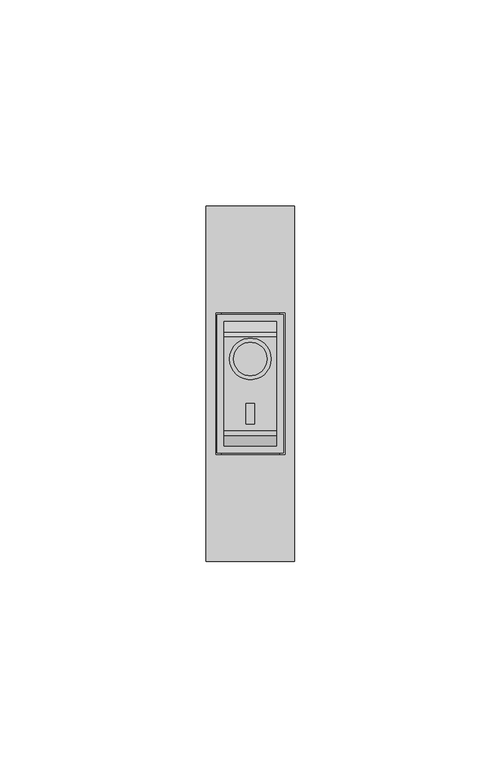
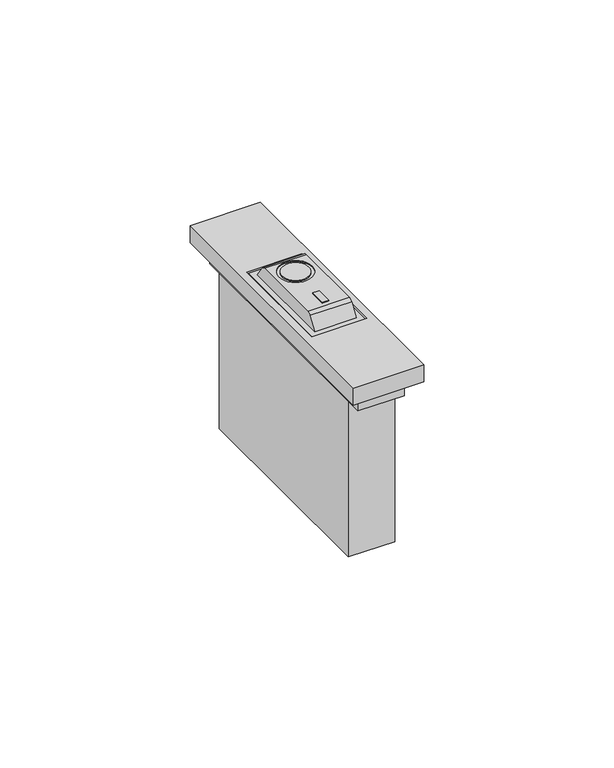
"""IFC4 building model written with IfcOpenShell, lengths in millimetres: proxy geometry, BT_LN-InterruttoreBipolare : Interruttore Bipolare - Art. KW4002 - 1M - Cover Bianco."""

from ifc_helpers import new_model, si_unit, frame, origin, origin_with_axes, place, context, project, spatial, polyline, circle_curve, outline, extrude, source, transform, mapped, element, save
from ifc_brep_helpers import plane_surface, cylinder_surface, revolved_surface, advanced_brep


def electrical_fixtures_2734a769(model_context):
    return source(origin(), model_context, "Body", "SolidModel", [
        extrude(outline(polyline([(-7.0, 39.0), (7.0, 39.0), (7.0, -39.0), (-7.0, -39.0), (-7.0, 39.0)])), frame((0.0, 0.0, 50.0), z_axis=(0.0, 0.0, 1.0), x_axis=(1.0, 0.0, 0.0)), (0.0, 0.0, 1.0), 5.5),
        extrude(outline(polyline([(-7.0, 34.0), (7.0, 34.0), (7.0, -34.0), (-7.0, -34.0), (-7.0, 34.0)])), origin_with_axes(), (0.0, 0.0, 1.0), 50.0),
        extrude(outline(polyline([(1.0, -4.7442618), (1.0, -9.7442618), (-1.0, -9.7442618), (-1.0, -4.7442618), (1.0, -4.7442618)])), frame((0.0, 0.0, 60.7), z_axis=(0.0, 0.0, 1.0), x_axis=(1.0, 0.0, 0.0)), (0.0, 0.0, 1.0), 4.3),
        advanced_brep(
        [(-6.3433174, 11.3192568, 65.0), (-6.3433174, 12.5494472, 64.3582724), (-6.3433174, 15.1017303, 60.7), (-6.3433174, -15.1017303, 60.7), (-6.3433174, -12.5494472, 64.3582724), (-6.3433174, -11.3192568, 65.0), (6.3433174, 11.3192568, 65.0), (6.3433174, -11.3192568, 65.0), (6.3433174, -12.5494472, 64.3582724), (6.3433174, -15.1017303, 60.7), (6.3433174, 15.1017303, 60.7), (6.3433174, 12.5494472, 64.3582724), (-5.0321318, 6.0, 65.0), (5.0321318, 6.0, 65.0), (1.0, -9.7442618, 65.0), (-1.0, -9.7442618, 65.0), (-1.0, -4.7442618, 65.0), (1.0, -4.7442618, 65.0), (-4.0321318, 6.0, 65.0), (4.0321318, 6.0, 65.0), (-1.0, -9.7442618, 60.7), (1.0, -9.7442618, 60.7), (1.0, -4.7442618, 60.7), (-1.0, -4.7442618, 60.7), (5.0321318, 6.0, 64.642622), (-5.0321318, 6.0, 64.642622), (4.0321318, 6.0, 64.642622), (-4.0321318, 6.0, 64.642622)],
        [
            (0, 1, circle_curve(frame((-6.3433174, 11.3192568, 63.5), z_axis=(-1.0, 0.0, 0.0), x_axis=(0.0, 1.0, 0.0)), 1.5)),
            (1, 2),
            (2, 3),
            (3, 4),
            (4, 5, circle_curve(frame((-6.3433174, -11.3192568, 63.5), z_axis=(-1.0, 0.0, 0.0), x_axis=(0.0, 1.0, 0.0)), 1.5)),
            (5, 0),
            (6, 7),
            (7, 8, circle_curve(frame((6.3433174, -11.3192568, 63.5), z_axis=(1.0, 0.0, 0.0), x_axis=(0.0, 1.0, 0.0)), 1.5)),
            (8, 9),
            (9, 10),
            (10, 11),
            (11, 6, circle_curve(frame((6.3433174, 11.3192568, 63.5), z_axis=(1.0, 0.0, 0.0), x_axis=(0.0, 1.0, 0.0)), 1.5)),
            (5, 7),
            (6, 0),
            (12, 13, circle_curve(frame((0.0, 6.0, 65.0), z_axis=(0.0, 0.0, -1.0), x_axis=(-1.0, 0.0, 0.0)), 5.0321318)),
            (13, 12, circle_curve(frame((0.0, 6.0, 65.0), z_axis=(0.0, 0.0, -1.0), x_axis=(-1.0, 0.0, 0.0)), 5.0321318)),
            (14, 15),
            (15, 16),
            (16, 17),
            (17, 14),
            (18, 19, circle_curve(frame((0.0, 6.0, 65.0), z_axis=(0.0, 0.0, 1.0), x_axis=(-1.0, 0.0, 0.0)), 4.0321318)),
            (19, 18, circle_curve(frame((0.0, 6.0, 65.0), z_axis=(0.0, 0.0, 1.0), x_axis=(-1.0, 0.0, 0.0)), 4.0321318)),
            (4, 8),
            (3, 9),
            (2, 10),
            (20, 21),
            (21, 22),
            (22, 23),
            (23, 20),
            (1, 11),
            (24, 25, circle_curve(frame((0.0, 6.0, 64.642622), z_axis=(0.0, 0.0, 1.0), x_axis=(-1.0, 0.0, 0.0)), 5.0321318)),
            (25, 24, circle_curve(frame((0.0, 6.0, 64.642622), z_axis=(0.0, 0.0, 1.0), x_axis=(-1.0, 0.0, 0.0)), 5.0321318)),
            (26, 27, circle_curve(frame((0.0, 6.0, 64.642622), z_axis=(0.0, 0.0, -1.0), x_axis=(-1.0, 0.0, 0.0)), 4.0321318)),
            (27, 26, circle_curve(frame((0.0, 6.0, 64.642622), z_axis=(0.0, 0.0, -1.0), x_axis=(-1.0, 0.0, 0.0)), 4.0321318)),
            (26, 19),
            (18, 27),
            (24, 13),
            (12, 25),
            (14, 21),
            (20, 15),
            (17, 22),
            (16, 23),
        ],
        [
            plane_surface(frame((-6.3433174, -43.0, 65.0), z_axis=(-1.0, 0.0, 0.0), x_axis=(0.0, 1.0, 0.0))),
            plane_surface(frame((6.3433174, -43.0, 65.0), z_axis=(1.0, 0.0, 0.0), x_axis=(0.0, -1.0, 0.0))),
            plane_surface(frame((6.3433174, 11.3192568, 65.0), z_axis=(0.0, 0.0, 1.0), x_axis=(-1.0, 0.0, 0.0))),
            cylinder_surface(frame((-6.3433174, -11.3192568, 63.5), z_axis=(1.0, 0.0, 0.0), x_axis=(0.0, 1.0, 0.0)), 1.5),
            plane_surface(frame((6.3433174, -12.5494472, 64.3582724), z_axis=(0.0, -0.8201269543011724, 0.5721815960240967), x_axis=(-1.0, 0.0, 0.0))),
            plane_surface(frame((6.3433174, -15.1017303, 60.7), z_axis=(0.0, 0.0, -1.0), x_axis=(-1.0, 0.0, 0.0))),
            plane_surface(frame((6.3433174, 15.1017303, 60.7), z_axis=(0.0, 0.8201269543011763, 0.5721815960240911), x_axis=(-1.0, 0.0, 0.0))),
            cylinder_surface(frame((-6.3433174, 11.3192568, 63.5), z_axis=(1.0, 0.0, 0.0), x_axis=(0.0, 1.0, 0.0)), 1.5),
            plane_surface(frame((-4.0321318, 6.0, 64.642622), z_axis=(0.0, 0.0, 1.0), x_axis=(0.0, -1.0, 0.0))),
            cylinder_surface(frame((0.0, 6.0, 64.642622), z_axis=(0.0, 0.0, -1.0), x_axis=(-1.0, 0.0, 0.0)), 4.0321318),
            revolved_surface(polyline([(-5.0321318, 6.0, 65.0), (-5.0321318, 6.0, 64.642622)]), (0.0, 6.0, 61.0), (0.0, 0.0, 1.0)),
            plane_surface(frame((-1.0, -9.7442618, 65.0), z_axis=(0.0, 1.0, 0.0), x_axis=(0.0, 0.0, -1.0))),
            plane_surface(frame((1.0, -9.7442618, 65.0), z_axis=(-1.0, 0.0, 0.0), x_axis=(0.0, 0.0, -1.0))),
            plane_surface(frame((1.0, -4.7442618, 65.0), z_axis=(0.0, -1.0, 0.0), x_axis=(0.0, 0.0, -1.0))),
            plane_surface(frame((-1.0, -4.7442618, 65.0), z_axis=(1.0, 0.0, 0.0), x_axis=(0.0, 0.0, -1.0))),
        ],
        [
            (0, [[1, 2, 3, 4, 5, 6]]),
            (1, [[7, 8, 9, 10, 11, 12]]),
            (2, [[-6, 13, -7, 14], [15, 16], [17, 18, 19, 20]]),
            (2, [[21, 22]]),
            (3, [[-5, 23, -8, -13]]),
            (4, [[-4, 24, -9, -23]]),
            (5, [[-3, 25, -10, -24], [26, 27, 28, 29]]),
            (6, [[-2, 30, -11, -25]]),
            (7, [[-1, -14, -12, -30]]),
            (8, [[31, 32], [33, 34]]),
            (9, [[-33, 35, -21, 36]]),
            (9, [[-34, -36, -22, -35]]),
            (10, [[-31, 37, -15, 38]]),
            (10, [[-32, -38, -16, -37]]),
            (11, [[39, -26, 40, -17]]),
            (12, [[-39, -20, 41, -27]]),
            (13, [[-41, -19, 42, -28]]),
            (14, [[-40, -29, -42, -18]]),
        ],
    ),
        extrude(outline(polyline([(-8.0433174, -16.8017303), (-8.0433174, 16.8017303), (8.0433174, 16.8017303), (8.0433174, -16.8017303), (-8.0433174, -16.8017303)])), frame((0.0, 0.0, 55.5), z_axis=(0.0, 0.0, 1.0), x_axis=(1.0, 0.0, 0.0)), (0.0, 0.0, 1.0), 5.2),
        extrude(outline(polyline([(-10.7, -43.0), (-10.7, 43.0), (10.7, 43.0), (10.7, -43.0), (-10.7, -43.0)]), holes=[polyline([(-8.3433174, -17.1017303), (8.3433174, -17.1017303), (8.3433174, 17.1017303), (-8.3433174, 17.1017303), (-8.3433174, -17.1017303)])]), frame((0.0, 0.0, 55.5), z_axis=(0.0, 0.0, 1.0), x_axis=(1.0, 0.0, 0.0)), (0.0, 0.0, 1.0), 5.5),
    ])


if __name__ == "__main__":
    model = new_model("IFC4")
    model_context = context("Model", 3, world=origin())
    ifc_project = project(units=[si_unit("LENGTHUNIT", "METRE", prefix="MILLI")], contexts=[model_context])
    site = spatial("IfcSite", under=ifc_project)
    building = spatial("IfcBuilding", under=site)
    placement = place(None, origin())
    electrical_fixtures_shape = electrical_fixtures_2734a769(model_context)
    element("IfcBuildingElementProxy", 1, Name="BT_LN-InterruttoreBipolare : Interruttore Bipolare - Art. KW4002 - 1M - Cover Bianco", ObjectType="BT_LN-InterruttoreBipolare : Interruttore Bipolare - Art. KW4002 - 1M - Cover Bianco", at=placement, inside=building, context=model_context, shape_type="MappedRepresentation", body=[
        mapped(electrical_fixtures_shape, transform((0.0, 0.0, 0.0), x_axis=(1.0, 0.0, 0.0), y_axis=(0.0, 1.0, 0.0), z_axis=(0.0, 0.0, 1.0))),
    ])
    save(model, "model.ifc")
